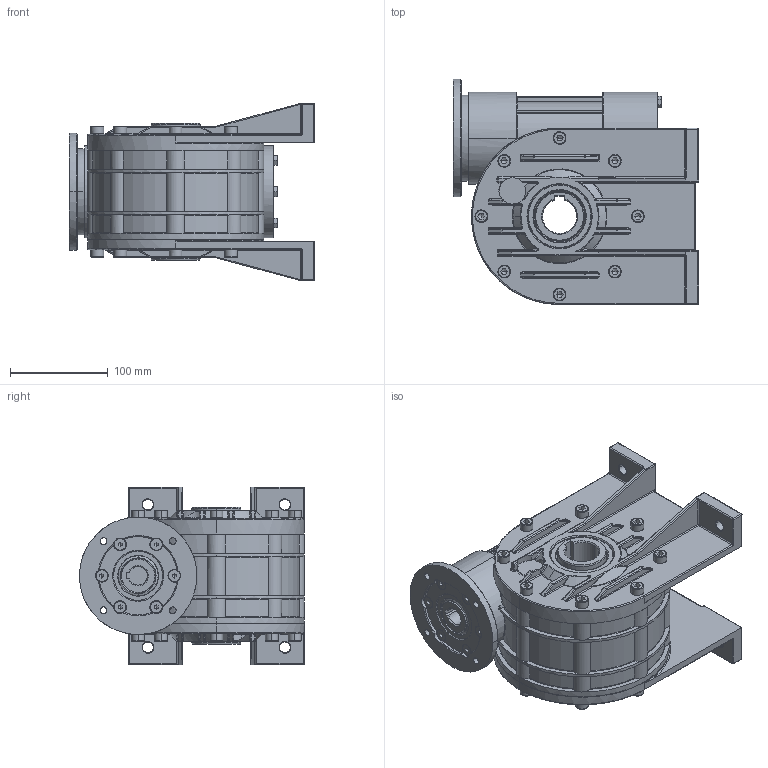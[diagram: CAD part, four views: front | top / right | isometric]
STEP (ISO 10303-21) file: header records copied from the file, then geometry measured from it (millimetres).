
FILE_DESCRIPTION (( 'STEP AP203' ), '1' );
FILE_NAME ('3F002254.STEP', '2012-07-23T16:58:40', ( 'Amministratore' ), ( 'SerteK sas' ), 'SwSTEP 2.0', 'SolidWorks 2009', '' );
FILE_SCHEMA (( 'CONFIG_CONTROL_DESIGN' ));
Length unit declared in the file: millimetre
Products named in the file (1): 3F002254
Bounding box: 250.5 x 230.08 x 181.8 mm (x, y, z)
Surface area: 584057 mm2 (no closed solid volume)
Topology: 0 solids, 31 shells, 3209 faces, 8311 edges, 4963 vertices
Faces by surface type: bspline 1135, cylinder 1062, plane 555, cone 457
Entity records: 222912 total; most frequent: CARTESIAN_POINT 157546, ORIENTED_EDGE 16018, DIRECTION 9960, EDGE_CURVE 8029, VERTEX_POINT 4963, AXIS2_PLACEMENT_3D 3930, B_SPLINE_CURVE_WITH_KNOTS 3845, EDGE_LOOP 3396
